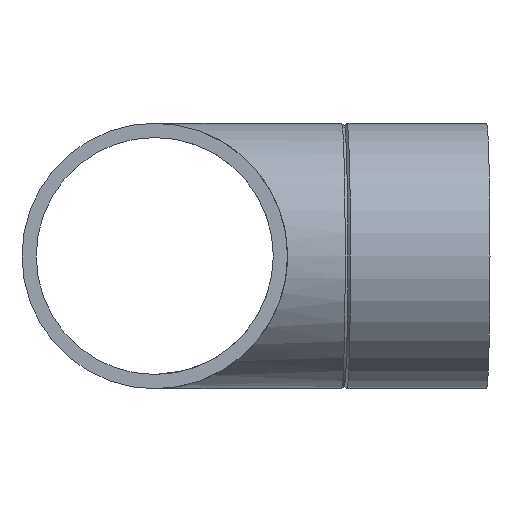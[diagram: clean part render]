
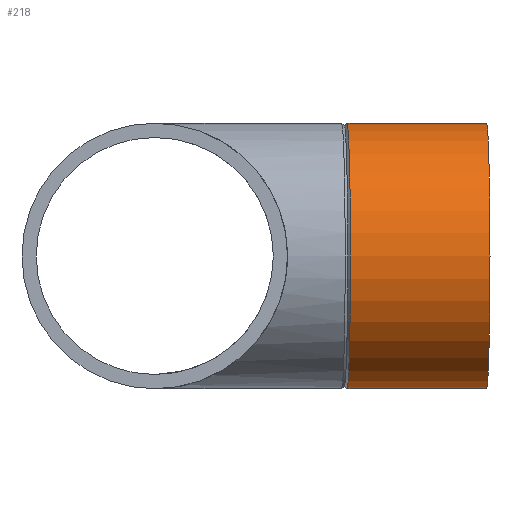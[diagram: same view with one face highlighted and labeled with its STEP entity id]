
A CAD part, front view. The second image highlights one B-rep face of the part: STEP entity #218.
In plain terms, the highlighted cylindrical face has radius 28 mm (diameter 56 mm), a full revolution.
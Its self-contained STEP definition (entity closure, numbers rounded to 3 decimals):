
#23=CYLINDRICAL_SURFACE($,#252,28.);
#37=FACE_BOUND($,#82,.T.);
#58=FACE_OUTER_BOUND($,#81,.T.);
#81=EDGE_LOOP($,(#171));
#82=EDGE_LOOP($,(#172));
#99=CIRCLE($,#238,28.);
#105=CIRCLE($,#253,28.);
#116=VERTEX_POINT($,#353);
#124=VERTEX_POINT($,#376);
#135=EDGE_CURVE($,#116,#116,#99,.T.);
#143=EDGE_CURVE($,#124,#124,#105,.T.);
#171=ORIENTED_EDGE($,*,*,#135,.T.);
#172=ORIENTED_EDGE($,*,*,#143,.T.);
#218=ADVANCED_FACE($,(#58,#37),#23,.T.);
#238=AXIS2_PLACEMENT_3D($,#354,#286,#287);
#252=AXIS2_PLACEMENT_3D($,#375,#314,#315);
#253=AXIS2_PLACEMENT_3D($,#377,#316,#317);
#286=DIRECTION('center_axis',(1.,0.026,0.));
#287=DIRECTION('ref_axis',(0.026,-1.,0.));
#314=DIRECTION('center_axis',(-1.,-0.026,0.));
#315=DIRECTION('ref_axis',(0.026,-1.,0.));
#316=DIRECTION('center_axis',(-1.,-0.026,0.));
#317=DIRECTION('ref_axis',(0.026,-1.,0.));
#353=CARTESIAN_POINT('',(41.279,78.071,0.));
#354=CARTESIAN_POINT('Origin',(40.546,106.062,0.));
#375=CARTESIAN_POINT('Origin',(69.976,106.832,0.));
#376=CARTESIAN_POINT('',(69.243,134.823,0.));
#377=CARTESIAN_POINT('Origin',(69.976,106.832,0.));
